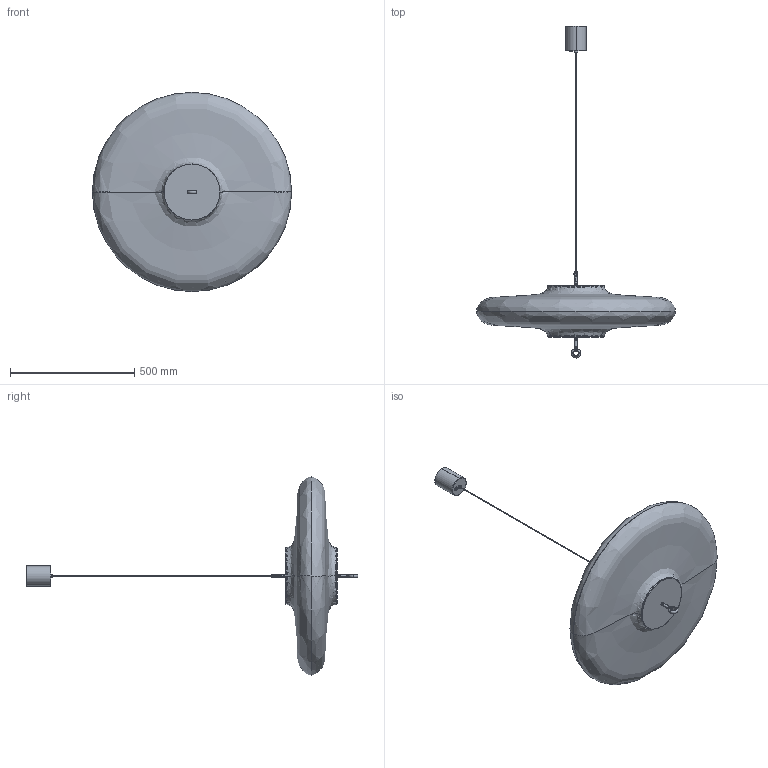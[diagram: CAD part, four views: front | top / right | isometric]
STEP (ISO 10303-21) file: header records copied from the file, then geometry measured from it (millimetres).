
FILE_DESCRIPTION((''),'2;1');
FILE_NAME('TBS100_ASM','2022-11-15T17:15:00',('adriano.sorzio'),(''),'CREO PARAMETRIC BY PTC INC, 2020354','CREO PARAMETRIC BY PTC INC, 2020354','');
FILE_SCHEMA(('CONFIG_CONTROL_DESIGN','SHAPE_APPEARANCE_LAYERS_GROUPS'));
Products named in the file (26): 01189; 01190; M-00-54-21; T-10-30-21; T-10-20-21; S-04-42-20; PL-E14-02121; E14-LG2603_5; 01191; 01162; 01193; M4X4-UNI5927; 01194; 00653; 01192; T-10-15-21; AVS-1086-1000; 01196; STEAB_6222; AVS-1344N_P; 01197; AVS-1345; STEB5100-7-109; STEAB5408-4-10; 01196C_ASM; TBS100_ASM
Assembly tree (63 placements, depth 3):
  TBS100_ASM
    01189
    01190  x2
    M-00-54-21  x8
    T-10-30-21  x2
    T-10-20-21  x6
    S-04-42-20  x6
    PL-E14-02121  x6
    E14-LG2603_5  x6
    01191  x4
    01162  x2
    01193
    M4X4-UNI5927  x3
    01194
    00653
    01192
    T-10-15-21
    AVS-1086-1000
    01196C_ASM
      01196
      STEAB_6222
      AVS-1344N_P
      M-00-54-21  x3
      01197
      AVS-1345
      STEB5100-7-109
      STEAB5408-4-10
Bounding box: 800 x 1334 x 800 mm (x, y, z)
Volume: 5524360.5 mm3; surface area: 3000944.4 mm2
Topology: 62 solids, 106 shells, 2006 faces, 4999 edges, 3131 vertices
Faces by surface type: cylinder 868, plane 399, bspline 348, cone 303, torus 50, sphere 30, revolution 8
Entity records: 49217 total; most frequent: CARTESIAN_POINT 28482, ORIENTED_EDGE 4096, DIRECTION 3940, EDGE_CURVE 2105, AXIS2_PLACEMENT_3D 1535, VERTEX_POINT 1346, EDGE_LOOP 933, VECTOR 866
